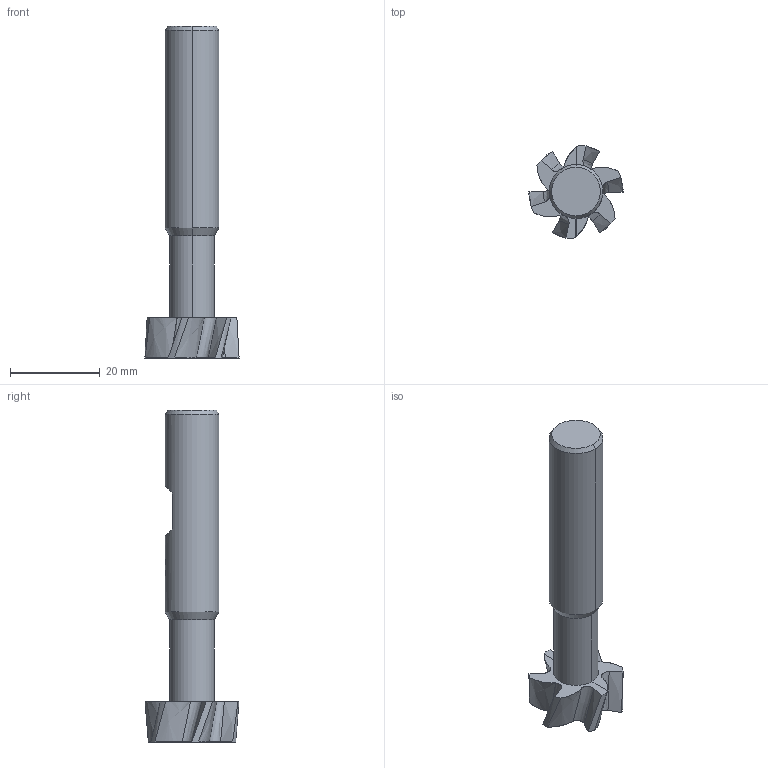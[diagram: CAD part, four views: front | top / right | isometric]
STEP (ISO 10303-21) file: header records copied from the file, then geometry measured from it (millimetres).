
FILE_DESCRIPTION(('no description'),'unknown implementation level');
FILE_NAME('solidQMC0l_v0f_QJ3HauHRB5j_Vgm8I_1.STP',' ',('CIMSOURCE GmbH'),('CADClick - KiM GmbH - www.kimweb.de'),'unknown preprocess','ACIS','unknown authorization');
FILE_SCHEMA(('automotive_design'));
Length unit declared in the file: millimetre
Products named in the file (2): NOCUT; CUT
Bounding box: 21 x 20.95 x 74 mm (x, y, z)
Volume: 8418.8 mm3; surface area: 4603.6 mm2
Topology: 2 solids, 2 shells, 118 faces, 330 edges, 216 vertices
Faces by surface type: bspline 72, cylinder 22, cone 12, plane 12
Entity records: 16236 total; most frequent: CARTESIAN_POINT 10092, STYLED_ITEM 666, PRESENTATION_STYLE_ASSIGNMENT 666, COLOUR_RGB 666, ORIENTED_EDGE 660, EDGE_CURVE 330, CURVE_STYLE 330, DRAUGHTING_PRE_DEFINED_CURVE_FONT 330
